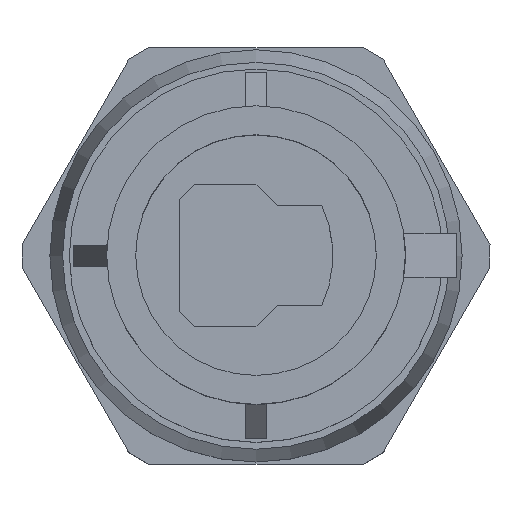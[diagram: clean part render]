
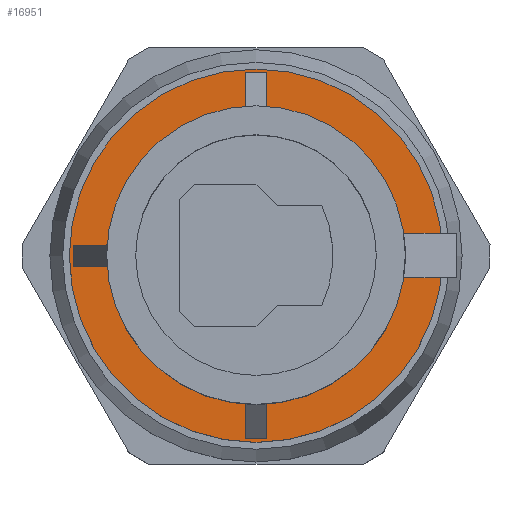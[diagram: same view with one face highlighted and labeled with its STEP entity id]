
A CAD part, top view. The second image highlights one B-rep face of the part: STEP entity #16951.
In plain terms, the highlighted planar face has unit normal (0, 0, 1).
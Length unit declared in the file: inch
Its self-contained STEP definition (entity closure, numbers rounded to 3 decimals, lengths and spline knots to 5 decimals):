
#48=FACE_BOUND($,#2861,.T.);
#1905=FACE_OUTER_BOUND($,#2860,.T.);
#2860=EDGE_LOOP($,(#13096));
#2861=EDGE_LOOP($,(#13097,#13098,#13099,#13100,#13101,#13102,#13103,#13104,
#13105,#13106,#13107,#13108,#13109,#13110,#13111,#13112));
#3920=LINE($,#30106,#5043);
#3921=LINE($,#30108,#5044);
#3922=LINE($,#30109,#5045);
#3923=LINE($,#30111,#5046);
#3924=LINE($,#30113,#5047);
#3925=LINE($,#30114,#5048);
#3926=LINE($,#30116,#5049);
#3927=LINE($,#30118,#5050);
#3928=LINE($,#30119,#5051);
#3929=LINE($,#30121,#5052);
#3930=LINE($,#30123,#5053);
#3931=LINE($,#30124,#5054);
#5043=VECTOR($,#23092,0.16113);
#5044=VECTOR($,#23093,0.0475);
#5045=VECTOR($,#23094,0.16113);
#5046=VECTOR($,#23095,0.16113);
#5047=VECTOR($,#23096,0.0475);
#5048=VECTOR($,#23097,0.16113);
#5049=VECTOR($,#23098,0.16113);
#5050=VECTOR($,#23099,0.0475);
#5051=VECTOR($,#23100,0.16113);
#5052=VECTOR($,#23101,0.16113);
#5053=VECTOR($,#23102,0.0475);
#5054=VECTOR($,#23103,0.16113);
#5680=CIRCLE($,#18705,0.25);
#5681=CIRCLE($,#18707,0.25);
#5682=CIRCLE($,#18709,0.25);
#5683=CIRCLE($,#18711,0.25);
#5684=CIRCLE($,#18713,0.41875);
#6752=VERTEX_POINT($,#30079);
#6753=VERTEX_POINT($,#30081);
#6754=VERTEX_POINT($,#30085);
#6755=VERTEX_POINT($,#30087);
#6756=VERTEX_POINT($,#30091);
#6757=VERTEX_POINT($,#30093);
#6758=VERTEX_POINT($,#30097);
#6759=VERTEX_POINT($,#30099);
#6760=VERTEX_POINT($,#30103);
#6761=VERTEX_POINT($,#30105);
#6762=VERTEX_POINT($,#30107);
#6763=VERTEX_POINT($,#30110);
#6764=VERTEX_POINT($,#30112);
#6765=VERTEX_POINT($,#30115);
#6766=VERTEX_POINT($,#30117);
#6767=VERTEX_POINT($,#30120);
#6768=VERTEX_POINT($,#30122);
#9004=EDGE_CURVE($,#6752,#6753,#5680,.T.);
#9007=EDGE_CURVE($,#6754,#6755,#5681,.T.);
#9010=EDGE_CURVE($,#6756,#6757,#5682,.T.);
#9012=EDGE_CURVE($,#6759,#6758,#5683,.T.);
#9014=EDGE_CURVE($,#6760,#6760,#5684,.T.);
#9015=EDGE_CURVE($,#6761,#6758,#3920,.T.);
#9016=EDGE_CURVE($,#6762,#6761,#3921,.T.);
#9017=EDGE_CURVE($,#6756,#6762,#3922,.T.);
#9018=EDGE_CURVE($,#6763,#6757,#3923,.T.);
#9019=EDGE_CURVE($,#6764,#6763,#3924,.T.);
#9020=EDGE_CURVE($,#6754,#6764,#3925,.T.);
#9021=EDGE_CURVE($,#6765,#6755,#3926,.T.);
#9022=EDGE_CURVE($,#6766,#6765,#3927,.T.);
#9023=EDGE_CURVE($,#6752,#6766,#3928,.T.);
#9024=EDGE_CURVE($,#6767,#6753,#3929,.T.);
#9025=EDGE_CURVE($,#6768,#6767,#3930,.T.);
#9026=EDGE_CURVE($,#6759,#6768,#3931,.T.);
#13096=ORIENTED_EDGE($,*,*,#9014,.T.);
#13097=ORIENTED_EDGE($,*,*,#9015,.F.);
#13098=ORIENTED_EDGE($,*,*,#9016,.F.);
#13099=ORIENTED_EDGE($,*,*,#9017,.F.);
#13100=ORIENTED_EDGE($,*,*,#9010,.T.);
#13101=ORIENTED_EDGE($,*,*,#9018,.F.);
#13102=ORIENTED_EDGE($,*,*,#9019,.F.);
#13103=ORIENTED_EDGE($,*,*,#9020,.F.);
#13104=ORIENTED_EDGE($,*,*,#9007,.T.);
#13105=ORIENTED_EDGE($,*,*,#9021,.F.);
#13106=ORIENTED_EDGE($,*,*,#9022,.F.);
#13107=ORIENTED_EDGE($,*,*,#9023,.F.);
#13108=ORIENTED_EDGE($,*,*,#9004,.T.);
#13109=ORIENTED_EDGE($,*,*,#9024,.F.);
#13110=ORIENTED_EDGE($,*,*,#9025,.F.);
#13111=ORIENTED_EDGE($,*,*,#9026,.F.);
#13112=ORIENTED_EDGE($,*,*,#9012,.T.);
#16041=PLANE($,#18712);
#16951=ADVANCED_FACE($,(#1905,#48),#16041,.T.);
#18705=AXIS2_PLACEMENT_3D($,#30083,#23068,#23069);
#18707=AXIS2_PLACEMENT_3D($,#30089,#23074,#23075);
#18709=AXIS2_PLACEMENT_3D($,#30095,#23080,#23081);
#18711=AXIS2_PLACEMENT_3D($,#30100,#23085,#23086);
#18712=AXIS2_PLACEMENT_3D($,#30102,#23088,#23089);
#18713=AXIS2_PLACEMENT_3D($,#30104,#23090,#23091);
#23068=DIRECTION('center_axis',(0.,0.,
-1.));
#23069=DIRECTION('ref_axis',(0.995,0.095,0.));
#23074=DIRECTION('center_axis',(0.,0.,
-1.));
#23075=DIRECTION('ref_axis',(-0.095,0.995,0.));
#23080=DIRECTION('center_axis',(0.,0.,
-1.));
#23081=DIRECTION('ref_axis',(-0.995,-0.095,0.));
#23085=DIRECTION('center_axis',(0.,0.,
-1.));
#23086=DIRECTION('ref_axis',(0.095,-0.995,0.));
#23088=DIRECTION('center_axis',(0.,0.,1.));
#23089=DIRECTION('ref_axis',(1.,0.,0.));
#23090=DIRECTION('center_axis',(0.,0.,1.));
#23091=DIRECTION('ref_axis',(0.,-1.,0.));
#23092=DIRECTION($,(0.,1.,0.));
#23093=DIRECTION($,(1.,0.,0.));
#23094=DIRECTION($,(0.,-1.,0.));
#23095=DIRECTION($,(1.,0.,0.));
#23096=DIRECTION($,(0.,-1.,0.));
#23097=DIRECTION($,(-1.,0.,0.));
#23098=DIRECTION($,(0.,-1.,0.));
#23099=DIRECTION($,(-1.,0.,0.));
#23100=DIRECTION($,(0.,1.,0.));
#23101=DIRECTION($,(-1.,0.,0.));
#23102=DIRECTION($,(0.,1.,0.));
#23103=DIRECTION($,(1.,0.,0.));
#30079=CARTESIAN_POINT('',(8.2934,1.84111,2.68363));
#30081=CARTESIAN_POINT('',(8.51852,1.61599,2.68363));
#30083=CARTESIAN_POINT('Origin',(8.26965,1.59224,2.68363));
#30085=CARTESIAN_POINT('',(8.02078,1.61599,2.68363));
#30087=CARTESIAN_POINT('',(8.2459,1.84111,2.68363));
#30089=CARTESIAN_POINT('Origin',(8.26965,1.59224,2.68363));
#30091=CARTESIAN_POINT('',(8.2459,1.34337,2.68363));
#30093=CARTESIAN_POINT('',(8.02078,1.56849,2.68363));
#30095=CARTESIAN_POINT('Origin',(8.26965,1.59224,2.68363));
#30097=CARTESIAN_POINT('',(8.2934,1.34337,2.68363));
#30099=CARTESIAN_POINT('',(8.51852,1.56849,2.68363));
#30100=CARTESIAN_POINT('Origin',(8.26965,1.59224,2.68363));
#30102=CARTESIAN_POINT('Origin',(7.8509,1.59224,2.68363));
#30103=CARTESIAN_POINT('',(8.26965,2.01099,2.68363));
#30104=CARTESIAN_POINT('Origin',(8.26965,1.59224,2.68363));
#30105=CARTESIAN_POINT('',(8.2934,1.18224,2.68363));
#30106=CARTESIAN_POINT($,(8.2934,1.18224,2.68363));
#30107=CARTESIAN_POINT('',(8.2459,1.18224,2.68363));
#30108=CARTESIAN_POINT($,(8.2459,1.18224,2.68363));
#30109=CARTESIAN_POINT($,(8.2459,1.34337,2.68363));
#30110=CARTESIAN_POINT('',(7.85965,1.56849,2.68363));
#30111=CARTESIAN_POINT($,(7.85965,1.56849,2.68363));
#30112=CARTESIAN_POINT('',(7.85965,1.61599,2.68363));
#30113=CARTESIAN_POINT($,(7.85965,1.61599,2.68363));
#30114=CARTESIAN_POINT($,(8.02078,1.61599,2.68363));
#30115=CARTESIAN_POINT('',(8.2459,2.00224,2.68363));
#30116=CARTESIAN_POINT($,(8.2459,2.00224,2.68363));
#30117=CARTESIAN_POINT('',(8.2934,2.00224,2.68363));
#30118=CARTESIAN_POINT($,(8.2934,2.00224,2.68363));
#30119=CARTESIAN_POINT($,(8.2934,1.84111,2.68363));
#30120=CARTESIAN_POINT('',(8.67965,1.61599,2.68363));
#30121=CARTESIAN_POINT($,(8.67965,1.61599,2.68363));
#30122=CARTESIAN_POINT('',(8.67965,1.56849,2.68363));
#30123=CARTESIAN_POINT($,(8.67965,1.56849,2.68363));
#30124=CARTESIAN_POINT($,(8.51852,1.56849,2.68363));
